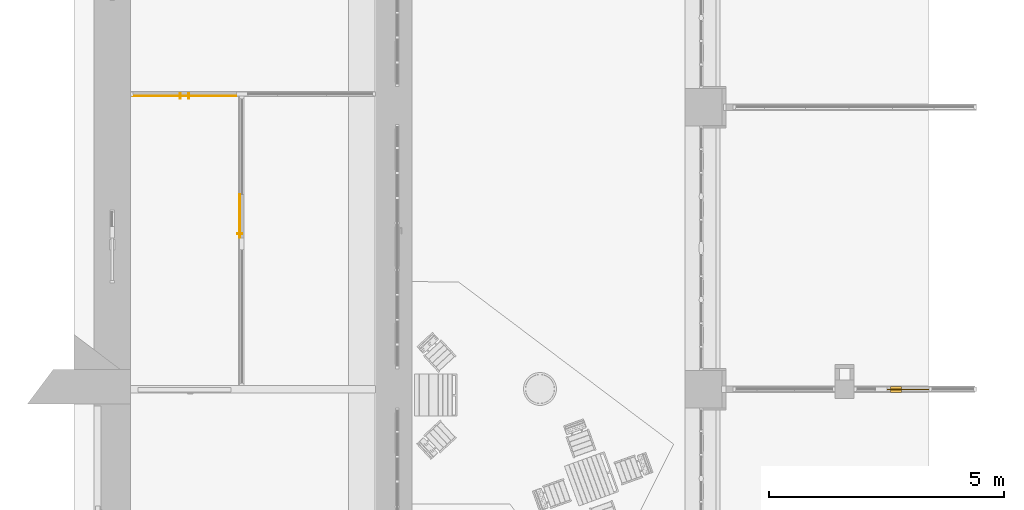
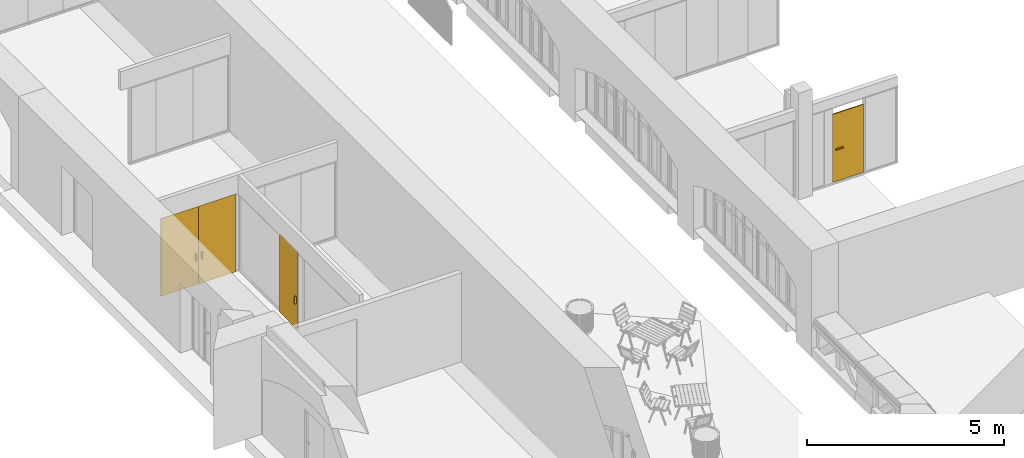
# One storey, part 83 of 88: 4 doors, 3 elements without a shape of their own.
"""IFC2X3 building model written with IfcOpenShell, lengths in millimetres."""

from ifc_helpers import new_model, entity, si_unit, converted_unit, derived_unit, direction, frame, frame_2d, origin, origin_2d_with_axis, place, context, subcontext, project, spatial, rectangle, extrude, source, transform, mapped, material, material_list, type_object, type_shapes, element, aggregate, save


model = new_model("IFC2X3")

# Units and contexts
model_context = context("Model", 3, precision=0.01, world=origin(), true_north=direction((6.123031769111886e-17, 1.0)))
body_context = subcontext(model_context, "Body", "Model", "MODEL_VIEW")
ifc_project = project(units=[si_unit("LENGTHUNIT", "METRE", prefix="MILLI"), si_unit("AREAUNIT", "SQUARE_METRE"), si_unit("VOLUMEUNIT", "CUBIC_METRE"), converted_unit("PLANEANGLEUNIT", "DEGREE", entity("IfcPlaneAngleMeasure", 0.017453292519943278), si_unit("PLANEANGLEUNIT", "RADIAN"), dimensions=[0, 0, 0, 0, 0, 0, 0]), si_unit("MASSUNIT", "GRAM", prefix="KILO"), derived_unit("MASSDENSITYUNIT", [(si_unit("MASSUNIT", "GRAM", prefix="KILO"), 1), (si_unit("LENGTHUNIT", "METRE"), -3)]), derived_unit("IONCONCENTRATIONUNIT", [(si_unit("MASSUNIT", "GRAM", prefix="KILO"), 1), (si_unit("LENGTHUNIT", "METRE"), -3)]), derived_unit("MOMENTOFINERTIAUNIT", [(si_unit("LENGTHUNIT", "METRE"), 4)]), si_unit("TIMEUNIT", "SECOND"), si_unit("FREQUENCYUNIT", "HERTZ"), si_unit("THERMODYNAMICTEMPERATUREUNIT", "DEGREE_CELSIUS"), derived_unit("THERMALTRANSMITTANCEUNIT", [(si_unit("MASSUNIT", "GRAM", prefix="KILO"), 1), (si_unit("THERMODYNAMICTEMPERATUREUNIT", "KELVIN"), -1), (si_unit("TIMEUNIT", "SECOND"), -3)]), derived_unit("THERMALCONDUCTANCEUNIT", [(si_unit("MASSUNIT", "GRAM", prefix="KILO"), 1), (si_unit("THERMODYNAMICTEMPERATUREUNIT", "KELVIN"), -1), (si_unit("TIMEUNIT", "SECOND"), -3), (si_unit("LENGTHUNIT", "METRE"), 1)]), derived_unit("VOLUMETRICFLOWRATEUNIT", [(si_unit("LENGTHUNIT", "METRE", prefix="DECI"), 3), (si_unit("TIMEUNIT", "SECOND"), -1)]), derived_unit("MASSFLOWRATEUNIT", [(si_unit("MASSUNIT", "GRAM", prefix="KILO"), 1), (si_unit("TIMEUNIT", "SECOND"), -1)]), derived_unit("ROTATIONALFREQUENCYUNIT", [(si_unit("TIMEUNIT", "SECOND"), -1)]), si_unit("ELECTRICCURRENTUNIT", "AMPERE"), si_unit("ELECTRICVOLTAGEUNIT", "VOLT"), si_unit("POWERUNIT", "WATT"), si_unit("FORCEUNIT", "NEWTON", prefix="KILO"), si_unit("ILLUMINANCEUNIT", "LUX"), si_unit("LUMINOUSFLUXUNIT", "LUMEN"), si_unit("LUMINOUSINTENSITYUNIT", "CANDELA"), si_unit("ENERGYUNIT", "JOULE"), derived_unit("USERDEFINED", [(si_unit("MASSUNIT", "GRAM", prefix="KILO"), -1), (si_unit("LENGTHUNIT", "METRE"), -2), (si_unit("TIMEUNIT", "SECOND"), 3), (si_unit("LUMINOUSFLUXUNIT", "LUMEN"), 1)]), derived_unit("USERDEFINED", [(si_unit("MASSUNIT", "GRAM", prefix="KILO"), 1), (si_unit("TIMEUNIT", "SECOND"), -3), (si_unit("LENGTHUNIT", "METRE"), 3), (si_unit("ELECTRICCURRENTUNIT", "AMPERE"), -2)]), derived_unit("SOUNDPOWERUNIT", [(si_unit("MASSUNIT", "GRAM", prefix="KILO"), 1), (si_unit("TIMEUNIT", "SECOND"), -3), (si_unit("LENGTHUNIT", "METRE"), 2)]), derived_unit("SOUNDPRESSUREUNIT", [(si_unit("MASSUNIT", "GRAM", prefix="KILO"), 1), (si_unit("LENGTHUNIT", "METRE"), -1), (si_unit("TIMEUNIT", "SECOND"), -2)]), derived_unit("LINEARVELOCITYUNIT", [(si_unit("LENGTHUNIT", "METRE"), 1), (si_unit("TIMEUNIT", "SECOND"), -1)]), si_unit("PRESSUREUNIT", "PASCAL"), derived_unit("USERDEFINED", [(si_unit("MASSUNIT", "GRAM", prefix="KILO"), 1), (si_unit("LENGTHUNIT", "METRE"), -2), (si_unit("TIMEUNIT", "SECOND"), -2)]), derived_unit("LINEARFORCEUNIT", [(si_unit("MASSUNIT", "GRAM", prefix="KILO"), 1), (si_unit("TIMEUNIT", "SECOND"), -2)]), derived_unit("PLANARFORCEUNIT", [(si_unit("MASSUNIT", "GRAM", prefix="KILO"), 1), (si_unit("LENGTHUNIT", "METRE"), -1), (si_unit("TIMEUNIT", "SECOND"), -2)]), derived_unit("SPECIFICHEATCAPACITYUNIT", [(si_unit("THERMODYNAMICTEMPERATUREUNIT", "KELVIN"), -1), (si_unit("LENGTHUNIT", "METRE"), 2), (si_unit("TIMEUNIT", "SECOND"), -2)]), derived_unit("HEATFLUXDENSITYUNIT", [(si_unit("MASSUNIT", "GRAM", prefix="KILO"), 1), (si_unit("TIMEUNIT", "SECOND"), -3)]), derived_unit("HEATINGVALUEUNIT", [(si_unit("LENGTHUNIT", "METRE"), 2), (si_unit("TIMEUNIT", "SECOND"), -2)]), derived_unit("VAPORPERMEABILITYUNIT", [(si_unit("LENGTHUNIT", "METRE"), -1), (si_unit("TIMEUNIT", "SECOND"), 1)]), derived_unit("DYNAMICVISCOSITYUNIT", [(si_unit("MASSUNIT", "GRAM", prefix="KILO"), 1), (si_unit("TIMEUNIT", "SECOND"), -1), (si_unit("LENGTHUNIT", "METRE"), -1)]), derived_unit("THERMALEXPANSIONCOEFFICIENTUNIT", [(si_unit("THERMODYNAMICTEMPERATUREUNIT", "KELVIN"), -1)]), derived_unit("MODULUSOFELASTICITYUNIT", [(si_unit("MASSUNIT", "GRAM", prefix="KILO"), 1), (si_unit("LENGTHUNIT", "METRE"), -1), (si_unit("TIMEUNIT", "SECOND"), -2)]), derived_unit("ISOTHERMALMOISTURECAPACITYUNIT", [(si_unit("MASSUNIT", "GRAM", prefix="KILO"), -1), (si_unit("LENGTHUNIT", "METRE"), 3)]), derived_unit("MOISTUREDIFFUSIVITYUNIT", [(si_unit("TIMEUNIT", "SECOND"), -1), (si_unit("LENGTHUNIT", "METRE"), 2)]), derived_unit("MASSPERLENGTHUNIT", [(si_unit("MASSUNIT", "GRAM", prefix="KILO"), 1), (si_unit("LENGTHUNIT", "METRE"), -1)]), derived_unit("THERMALRESISTANCEUNIT", [(si_unit("MASSUNIT", "GRAM", prefix="KILO"), -1), (si_unit("TIMEUNIT", "SECOND"), 3), (si_unit("THERMODYNAMICTEMPERATUREUNIT", "KELVIN"), 1)]), derived_unit("ACCELERATIONUNIT", [(si_unit("LENGTHUNIT", "METRE"), 1), (si_unit("TIMEUNIT", "SECOND"), -2)]), derived_unit("ANGULARVELOCITYUNIT", [(si_unit("TIMEUNIT", "SECOND"), -1), (si_unit("PLANEANGLEUNIT", "RADIAN"), 1)]), derived_unit("LINEARSTIFFNESSUNIT", [(si_unit("MASSUNIT", "GRAM", prefix="KILO"), 1), (si_unit("TIMEUNIT", "SECOND"), -2)]), derived_unit("WARPINGCONSTANTUNIT", [(si_unit("LENGTHUNIT", "METRE"), 6)]), derived_unit("LINEARMOMENTUNIT", [(si_unit("MASSUNIT", "GRAM", prefix="KILO"), 1), (si_unit("LENGTHUNIT", "METRE"), 1), (si_unit("TIMEUNIT", "SECOND"), -2)]), derived_unit("TORQUEUNIT", [(si_unit("MASSUNIT", "GRAM", prefix="KILO"), 1), (si_unit("LENGTHUNIT", "METRE"), 2), (si_unit("TIMEUNIT", "SECOND"), -2)])], contexts=[model_context])

# Site, building, storey
site_placement = place(None, origin())
site = spatial("IfcSite", under=ifc_project, at=site_placement, Name="Default", CompositionType="ELEMENT")
building_placement = place(site_placement, origin())
building = spatial("IfcBuilding", under=site, at=building_placement, Name="Eesti Rahvusraamatukogu hoone renoveerimise projekteerimistööd", CompositionType="ELEMENT")
storey_placement = place(building_placement, origin())
storey = spatial("IfcBuildingStorey", under=building, at=storey_placement, Name="1. korrus", CompositionType="ELEMENT", Elevation=0.0)

# Curtain wall, doors
curtain_wall_type = type_object("IfcCurtainWallType", Name="Curtain Wall:VLS Klaasvahesein profiilita 38db", PredefinedType="NOTDEFINED")
curtain_wall_1_placement = place(storey_placement, origin())
curtain_wall_1 = element("IfcCurtainWall", 1, at=curtain_wall_1_placement, inside=storey, type_object=curtain_wall_type, Name="Curtain Wall:VLS Klaasvahesein profiilita 38db", ObjectType="Curtain Wall:VLS Klaasvahesein profiilita 38db")
ifc_material_1 = material(Name="EST. Klaas. 1x. E-korpus")
ifc_material_2 = material(Name="EST.Alumiinium.RAL9005")
ifc_material_list_1 = material_list([ifc_material_1, ifc_material_2])
door_style_1 = type_object("IfcDoorStyle", Name="1-poolne, klaasseina uks:Metallprofiiluks 01", ConstructionType="NOTDEFINED", OperationType="SINGLE_SWING_LEFT", ParameterTakesPrecedence=False, Sizeable=False, material=ifc_material_list_1)
shared_shape_1 = source(origin(), body_context, "Body", "SweptSolid", [
    extrude(rectangle(XDim=12.700000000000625, YDim=1100.0000000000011, at=frame_2d((-3.9968028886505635e-15, 0.0), x_axis=(1.0, 0.0))), frame((0.0, 44.450000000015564, 0.0), z_axis=(0.0, 0.0, 1.0), x_axis=(0.0, -1.0, 0.0)), (0.0, 0.0, 1.0), 2400.0),
    extrude(rectangle(XDim=25.399999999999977, YDim=50.8, at=frame_2d((-3.375077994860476e-14, 0.0), x_axis=(1.0, 0.0))), frame((461.10000000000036, 12.700000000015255, 762.0)), (0.0, 0.0, 1.0), 228.60000000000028),
    extrude(rectangle(XDim=25.399999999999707, YDim=50.80000000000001, at=frame_2d((3.375077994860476e-14, -8.881784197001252e-15), x_axis=(1.0, 0.0))), frame((461.1000000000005, 76.20000000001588, 762.0), z_axis=(0.0, 0.0, 1.0), x_axis=(-1.0, 0.0, 0.0)), (0.0, 0.0, 1.0), 228.60000000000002),
])
type_shapes(door_style_1, [shared_shape_1])
door_1_placement = place(curtain_wall_1_placement, frame((-46880.0, 18670.0, 0.0), z_axis=(0.0, 0.0, 1.0), x_axis=(-1.0, 0.0, 0.0)))
door_1 = element("IfcDoor", 2, at=door_1_placement, type_object=door_style_1, material=ifc_material_list_1, Name="1-poolne, klaasseina uks:Metallprofiiluks 01", ObjectType="1-poolne, klaasseina uks:Metallprofiiluks 01", OverallHeight=2400.0, OverallWidth=1100.000000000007, context=body_context, shape_type="MappedRepresentation", body=[
    mapped(shared_shape_1, transform((0.0, 0.0, 0.0), scale=1.0)),
])
door_style_2 = type_object("IfcDoorStyle", Name="1-poolne, klaasseina uks:Metallprofiiluks 01", ConstructionType="NOTDEFINED", OperationType="SINGLE_SWING_RIGHT", ParameterTakesPrecedence=False, Sizeable=False, material=ifc_material_list_1)
shared_shape_2 = source(origin(), body_context, "Body", "SweptSolid", [
    extrude(rectangle(XDim=1100.0000000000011, YDim=12.700000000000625, at=frame_2d((0.0, 3.9968028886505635e-15), x_axis=(1.0, 0.0))), frame((0.0, 44.45000000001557, 0.0), z_axis=(0.0, 0.0, 1.0), x_axis=(-1.0, 0.0, 0.0)), (0.0, 0.0, 1.0), 2400.0),
    extrude(rectangle(XDim=50.8, YDim=25.399999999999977, at=frame_2d((0.0, 3.375077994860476e-14), x_axis=(1.0, 0.0))), frame((-461.1000000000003, 12.700000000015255, 762.0), z_axis=(0.0, 0.0, 1.0), x_axis=(0.0, 1.0, 0.0)), (0.0, 0.0, 1.0), 228.60000000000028),
    extrude(rectangle(XDim=50.80000000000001, YDim=25.399999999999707, at=frame_2d((-8.881784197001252e-15, 3.375077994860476e-14), x_axis=(1.0, 0.0))), frame((-461.1000000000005, 76.20000000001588, 762.0), z_axis=(0.0, 0.0, 1.0), x_axis=(0.0, -1.0, 0.0)), (0.0, 0.0, 1.0), 228.60000000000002),
])
type_shapes(door_style_2, [shared_shape_2])
door_2_placement = place(curtain_wall_1_placement, frame((-47980.0, 18670.0, 0.0), z_axis=(0.0, 0.0, 1.0), x_axis=(-1.0, 0.0, 0.0)))
door_2 = element("IfcDoor", 3, at=door_2_placement, type_object=door_style_2, material=ifc_material_list_1, Name="1-poolne, klaasseina uks:Metallprofiiluks 01", ObjectType="1-poolne, klaasseina uks:Metallprofiiluks 01", OverallHeight=2400.0, OverallWidth=1100.000000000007, context=body_context, shape_type="MappedRepresentation", body=[
    mapped(shared_shape_2, transform((0.0, 0.0, 0.0), scale=1.0)),
])
aggregate(curtain_wall_1, [door_1, door_2])

# Curtain wall, door
curtain_wall_2_placement = place(storey_placement, origin())
curtain_wall_2 = element("IfcCurtainWall", 4, at=curtain_wall_2_placement, inside=storey, type_object=curtain_wall_type, Name="Curtain Wall:VLS Klaasvahesein profiilita 38db", ObjectType="Curtain Wall:VLS Klaasvahesein profiilita 38db")
ifc_material_3 = material(Name="EST. Klaas. 3x. Default")
ifc_material_list_2 = material_list([ifc_material_3, ifc_material_2])
door_style_3 = type_object("IfcDoorStyle", Name="1-poolne, klaasseina uks:Metallprofiiluks ühepoolne", ConstructionType="NOTDEFINED", OperationType="SINGLE_SWING_RIGHT", ParameterTakesPrecedence=False, Sizeable=False, material=ifc_material_list_2)
shared_shape_3 = source(origin(), body_context, "Body", "SweptSolid", [
    extrude(rectangle(XDim=924.9999999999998, YDim=12.700000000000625, at=frame_2d((0.0, 3.9968028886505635e-15), x_axis=(1.0, 0.0))), frame((0.0, 44.45000000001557, 0.0), z_axis=(0.0, 0.0, 1.0), x_axis=(-1.0, 0.0, 0.0)), (0.0, 0.0, 1.0), 2400.0),
    extrude(rectangle(XDim=50.8, YDim=25.399999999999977, at=frame_2d((0.0, -3.375077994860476e-14), x_axis=(1.0, 0.0))), frame((-373.5999999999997, 12.700000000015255, 762.0), z_axis=(0.0, 0.0, 1.0), x_axis=(0.0, 1.0, 0.0)), (0.0, 0.0, 1.0), 228.60000000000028),
    extrude(rectangle(XDim=50.80000000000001, YDim=25.399999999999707, at=frame_2d((-8.881784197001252e-15, 3.375077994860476e-14), x_axis=(1.0, 0.0))), frame((-373.5999999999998, 76.20000000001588, 762.0), z_axis=(0.0, 0.0, 1.0), x_axis=(0.0, -1.0, 0.0)), (0.0, 0.0, 1.0), 228.60000000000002),
])
type_shapes(door_style_3, [shared_shape_3])
door_3_placement = place(curtain_wall_2_placement, frame((-46211.0, 16070.583333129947, 0.0), z_axis=(0.0, 0.0, 1.0), x_axis=(0.0, 1.0, 0.0)))
door_3 = element("IfcDoor", 5, at=door_3_placement, type_object=door_style_3, material=ifc_material_list_2, Name="1-poolne, klaasseina uks:Metallprofiiluks ühepoolne", ObjectType="1-poolne, klaasseina uks:Metallprofiiluks ühepoolne", OverallHeight=2400.0, OverallWidth=925.0000000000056, context=body_context, shape_type="MappedRepresentation", body=[
    mapped(shared_shape_3, transform((0.0, 0.0, 0.0), scale=1.0)),
])
aggregate(curtain_wall_2, [door_3])

curtain_wall_3_placement = place(storey_placement, origin())
curtain_wall_3 = element("IfcCurtainWall", 6, at=curtain_wall_3_placement, inside=storey, type_object=curtain_wall_type, Name="Curtain Wall:VLS Klaasvahesein profiilita 38db", ObjectType="Curtain Wall:VLS Klaasvahesein profiilita 38db")
ifc_material_4 = material(Name="Aluminum")
ifc_material_5 = material(Name="Wood")
ifc_material_list_3 = material_list([ifc_material_4, ifc_material_5])
door_style_4 = type_object("IfcDoorStyle", Name="VLS Klaasseina KVTD uks:uus  MKU-15 eeskujul - 900x2100 2", ConstructionType="NOTDEFINED", OperationType="SINGLE_SWING_LEFT", ParameterTakesPrecedence=False, Sizeable=False, material=ifc_material_list_3)
shared_shape_4 = source(origin(), body_context, "Body", "SweptSolid", [
    extrude(rectangle(XDim=228.60000000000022, YDim=50.8, at=origin_2d_with_axis()), frame((259.49999999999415, -35.39999999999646, 990.6000000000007)), (0.0, 0.0, 1.0), 25.39999999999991),
    extrude(rectangle(XDim=228.59999999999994, YDim=50.8, at=frame_2d((0.0, 3.552713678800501e-15), x_axis=(1.0, 0.0))), frame((259.4999999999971, 45.400000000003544, 990.6000000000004), z_axis=(0.0, 0.0, 1.0), x_axis=(-1.0, 0.0, 0.0)), (0.0, 0.0, 1.0), 25.39999999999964),
    extrude(rectangle(XDim=30.0, YDim=900.0000000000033, at=origin_2d_with_axis()), frame((0.0, 5.0, 0.0), z_axis=(0.0, 0.0, 1.0), x_axis=(0.0, -1.0, 0.0)), (0.0, 0.0, 1.0), 2100.0),
])
type_shapes(door_style_4, [shared_shape_4])
door_4_placement = place(curtain_wall_3_placement, frame((-32040.0, 12390.0, 1700.0), z_axis=(0.0, 0.0, 1.0), x_axis=(-1.0, 0.0, 0.0)))
door_4 = element("IfcDoor", 7, at=door_4_placement, type_object=door_style_4, material=ifc_material_list_3, Name="VLS Klaasseina KVTD uks:uus  MKU-15 eeskujul - 900x2100 2", ObjectType="VLS Klaasseina KVTD uks:uus  MKU-15 eeskujul - 900x2100 2", OverallHeight=2300.0, OverallWidth=900.000000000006, context=body_context, shape_type="MappedRepresentation", body=[
    mapped(shared_shape_4, transform((0.0, 0.0, 0.0), scale=1.0)),
])
aggregate(curtain_wall_3, [door_4])

save(model, "model.ifc")
